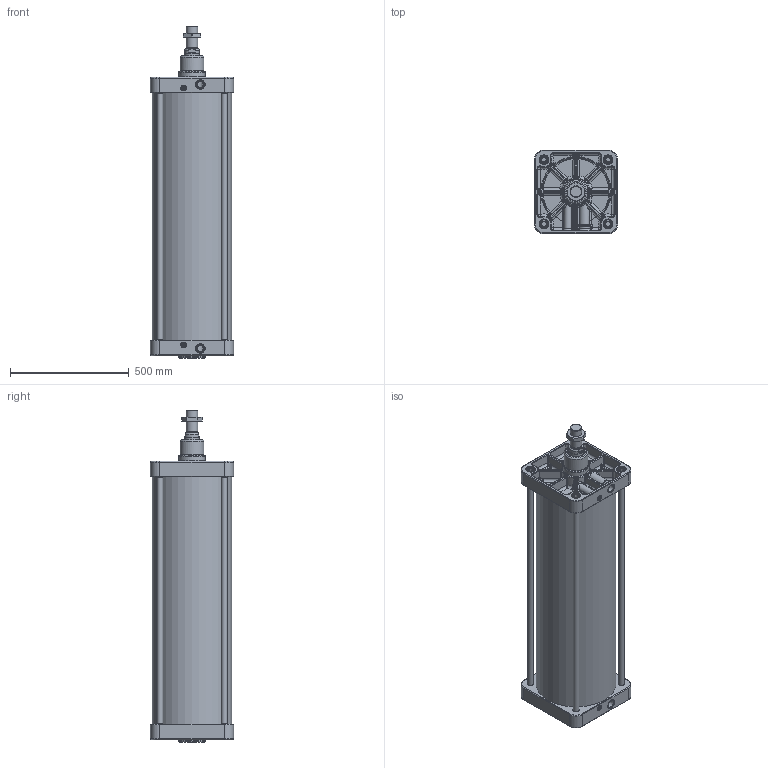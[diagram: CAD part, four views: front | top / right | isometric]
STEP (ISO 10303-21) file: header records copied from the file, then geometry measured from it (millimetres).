
FILE_DESCRIPTION(/* description */ (''),/* implementation_level */ '2;1');
FILE_NAME(/* name */ 'T:\Archivio Inventor\- 00 NUOVI STP PER SITO CON STELO CHE SI MUOVE\SERIE H - U\SERIE UDM\UDM320.---.GS.M\UDM320.950.GS.M.stp',/* time_stamp */ '2020-04-29T16:39:28+02:00',/* author */ ('carlo.corazza'),/* organization */ (''),/* preprocessor_version */ 'ST-DEVELOPER v16.5',/* originating_system */ 'Autodesk Inventor 2017',/* authorisation */ '');
FILE_SCHEMA (('AUTOMOTIVE_DESIGN { 1 0 10303 214 3 1 1 }'));
Length unit declared in the file: millimetre
Products named in the file (7): UDM320.950.GS.M; TP; STELO-950; TA; CORPO-950; TIRANTE-950; 29.2048.000.0
Assembly tree (9 placements, depth 2):
  UDM320.950.GS.M
    TP
    STELO-950
    TA
    TIRANTE-950  x4
    CORPO-950
    29.2048.000.0
Bounding box: 350 x 350 x 1396 mm (x, y, z)
Volume: 23696040.4 mm3; surface area: 3912041.1 mm2
Topology: 9 solids, 16 shells, 1710 faces, 3937 edges, 2221 vertices
Faces by surface type: cylinder 439, bspline 432, plane 380, torus 252, cone 115, sphere 92
Full cylindrical faces by diameter (mm): 8 x2, 9 x1, 10 x1, 11 x2, 11.2 x2, 12 x2, 12.376 x1, 13.4 x4, 14 x2, 15.8 x4, 16 x6, 20.752 x8, 24 x10, 24.5 x8, 25 x6, 30.291 x2, 36 x9, 37 x8, 40 x2, 44.8 x1, 45.835 x1, 48 x1, 62 x1, 63 x1, 64 x1, 64.293 x1, 65.8 x1, 73 x1, 75 x3, 100 x1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
Entity records: 64917 total; most frequent: CARTESIAN_POINT 27888, DIRECTION 7314, ORIENTED_EDGE 7088, EDGE_CURVE 3544, AXIS2_PLACEMENT_3D 3113, VERTEX_POINT 2134, EDGE_LOOP 1966, FACE_OUTER_BOUND 1683
